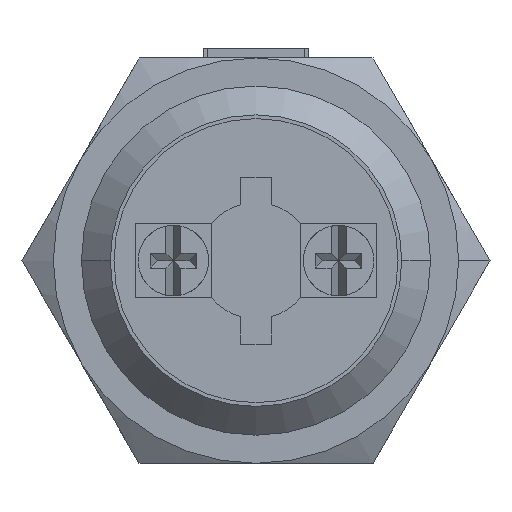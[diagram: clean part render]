
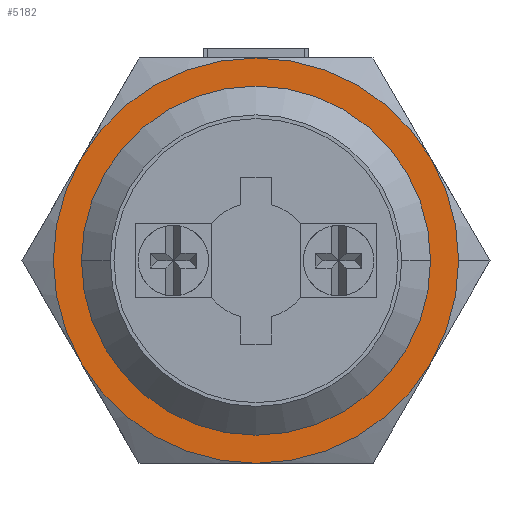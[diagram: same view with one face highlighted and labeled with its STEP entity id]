
A CAD part, front view. The second image highlights one B-rep face of the part: STEP entity #5182.
In plain terms, the highlighted planar face has unit normal (0, -1, 0).
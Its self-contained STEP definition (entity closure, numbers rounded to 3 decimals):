
#94 = CARTESIAN_POINT ( 'NONE',  ( 0., 8.55, 0. ) ) ;
#95 = DIRECTION ( 'NONE',  ( 0., -1., 0. ) ) ;
#96 = DIRECTION ( 'NONE',  ( 1., 0., 0. ) ) ;
#97 = CARTESIAN_POINT ( 'NONE',  ( 0., 8.55, 0. ) ) ;
#98 = DIRECTION ( 'NONE',  ( 0., -1., 0. ) ) ;
#99 = DIRECTION ( 'NONE',  ( 1., 0., 0. ) ) ;
#100 = CARTESIAN_POINT ( 'NONE',  ( 0., 8.55, 0. ) ) ;
#101 = DIRECTION ( 'NONE',  ( 0., -1., 0. ) ) ;
#102 = DIRECTION ( 'NONE',  ( 1., 0., 0. ) ) ;
#103 = CARTESIAN_POINT ( 'NONE',  ( 0., 8.55, 0. ) ) ;
#104 = DIRECTION ( 'NONE',  ( 0., -1., 0. ) ) ;
#105 = DIRECTION ( 'NONE',  ( 1., 0., 0. ) ) ;
#106 = CARTESIAN_POINT ( 'NONE',  ( 0., 8.55, 0. ) ) ;
#107 = DIRECTION ( 'NONE',  ( 0., -1., 0. ) ) ;
#108 = DIRECTION ( 'NONE',  ( 1., 0., 0. ) ) ;
#109 = CARTESIAN_POINT ( 'NONE',  ( 0., 8.55, 0. ) ) ;
#110 = DIRECTION ( 'NONE',  ( 0., -1., 0. ) ) ;
#111 = DIRECTION ( 'NONE',  ( 1., 0., 0. ) ) ;
#118 = CARTESIAN_POINT ( 'NONE',  ( 0., 8.55, 0. ) ) ;
#119 = DIRECTION ( 'NONE',  ( 0., 1., 0. ) ) ;
#120 = DIRECTION ( 'NONE',  ( -1., 0., 0. ) ) ;
#1071 = CARTESIAN_POINT ( 'NONE',  ( 9.45, 8.55, -5.456 ) ) ;
#1079 = CARTESIAN_POINT ( 'NONE',  ( 0., 8.55, 10.912 ) ) ;
#1083 = CARTESIAN_POINT ( 'NONE',  ( -9.45, 8.55, 5.456 ) ) ;
#1086 = CARTESIAN_POINT ( 'NONE',  ( -9.45, 8.55, -5.456 ) ) ;
#1091 = CARTESIAN_POINT ( 'NONE',  ( 0., 8.55, -10.912 ) ) ;
#1181 = CARTESIAN_POINT ( 'NONE',  ( 9.45, 8.55, 5.456 ) ) ;
#1183 = CARTESIAN_POINT ( 'NONE',  ( 10.912, 8.55, 0. ) ) ;
#1192 = CARTESIAN_POINT ( 'NONE',  ( 9.4, 8.55, 0. ) ) ;
#1210 = CARTESIAN_POINT ( 'NONE',  ( -9.4, 8.55, 0. ) ) ;
#1899 = ORIENTED_EDGE ( 'NONE', *, *, #5311, .T. ) ;
#1900 = ORIENTED_EDGE ( 'NONE', *, *, #5316, .T. ) ;
#1901 = ORIENTED_EDGE ( 'NONE', *, *, #5315, .T. ) ;
#1902 = ORIENTED_EDGE ( 'NONE', *, *, #5313, .T. ) ;
#1903 = ORIENTED_EDGE ( 'NONE', *, *, #5030, .T. ) ;
#1904 = ORIENTED_EDGE ( 'NONE', *, *, #5312, .T. ) ;
#1905 = ORIENTED_EDGE ( 'NONE', *, *, #5319, .T. ) ;
#1906 = ORIENTED_EDGE ( 'NONE', *, *, #4899, .T. ) ;
#1907 = ORIENTED_EDGE ( 'NONE', *, *, #5314, .T. ) ;
#2074 = EDGE_LOOP ( 'NONE', ( #1906, #1905 ) ) ;
#2075 = EDGE_LOOP ( 'NONE', ( #1904, #1903, #1902, #1907, #1901, #1900, #1899 ) ) ;
#2560 = CARTESIAN_POINT ( 'NONE',  ( 0., 8.55, 0. ) ) ;
#2579 = DIRECTION ( 'NONE',  ( 0., 1., 0. ) ) ;
#2580 = DIRECTION ( 'NONE',  ( -1., 0., 0. ) ) ;
#2892 = AXIS2_PLACEMENT_3D ( 'NONE', #118, #119, #120 ) ;
#2896 = AXIS2_PLACEMENT_3D ( 'NONE', #109, #110, #111 ) ;
#2898 = AXIS2_PLACEMENT_3D ( 'NONE', #106, #107, #108 ) ;
#2899 = AXIS2_PLACEMENT_3D ( 'NONE', #103, #104, #105 ) ;
#2900 = AXIS2_PLACEMENT_3D ( 'NONE', #100, #101, #102 ) ;
#2901 = AXIS2_PLACEMENT_3D ( 'NONE', #97, #98, #99 ) ;
#2902 = AXIS2_PLACEMENT_3D ( 'NONE', #94, #95, #96 ) ;
#3231 = AXIS2_PLACEMENT_3D ( 'NONE', #3994, #3995, #3996 ) ;
#3235 = FACE_OUTER_BOUND ( 'NONE', #2075, .T. ) ;
#3240 = FACE_BOUND ( 'NONE', #2074, .T. ) ;
#3429 = CARTESIAN_POINT ( 'NONE',  ( 0., 8.55, 0. ) ) ;
#3442 = DIRECTION ( 'NONE',  ( 0., -1., 0. ) ) ;
#3443 = DIRECTION ( 'NONE',  ( 1., 0., 0. ) ) ;
#3993 = PLANE ( 'NONE',  #3231 ) ;
#3994 = CARTESIAN_POINT ( 'NONE',  ( -9.4, 8.55, 0. ) ) ;
#3995 = DIRECTION ( 'NONE',  ( 0., -1., 0. ) ) ;
#3996 = DIRECTION ( 'NONE',  ( 1., 0., 0. ) ) ;
#4572 = AXIS2_PLACEMENT_3D ( 'NONE', #3429, #3442, #3443 ) ;
#4648 = AXIS2_PLACEMENT_3D ( 'NONE', #2560, #2579, #2580 ) ;
#4693 = CIRCLE ( 'NONE', #4572, 10.912 ) ;
#4811 = CIRCLE ( 'NONE', #2902, 10.912 ) ;
#4812 = CIRCLE ( 'NONE', #2901, 10.912 ) ;
#4813 = CIRCLE ( 'NONE', #2898, 10.912 ) ;
#4814 = CIRCLE ( 'NONE', #2899, 10.912 ) ;
#4815 = CIRCLE ( 'NONE', #2900, 10.912 ) ;
#4817 = CIRCLE ( 'NONE', #2896, 10.912 ) ;
#4822 = CIRCLE ( 'NONE', #2892, 9.4 ) ;
#4832 = CIRCLE ( 'NONE', #4648, 9.4 ) ;
#4899 = EDGE_CURVE ( 'NONE', #6096, #6078, #4832, .T. ) ;
#5030 = EDGE_CURVE ( 'NONE', #6069, #6067, #4693, .T. ) ;
#5182 = ADVANCED_FACE ( 'NONE', ( #3240, #3235 ), #3993, .T. ) ;
#5311 = EDGE_CURVE ( 'NONE', #5977, #5957, #4811, .T. ) ;
#5312 = EDGE_CURVE ( 'NONE', #5957, #6069, #4812, .T. ) ;
#5313 = EDGE_CURVE ( 'NONE', #6067, #5965, #4815, .T. ) ;
#5314 = EDGE_CURVE ( 'NONE', #5965, #5969, #4814, .T. ) ;
#5315 = EDGE_CURVE ( 'NONE', #5969, #5972, #4813, .T. ) ;
#5316 = EDGE_CURVE ( 'NONE', #5972, #5977, #4817, .T. ) ;
#5319 = EDGE_CURVE ( 'NONE', #6078, #6096, #4822, .T. ) ;
#5957 = VERTEX_POINT ( 'NONE', #1071 ) ;
#5965 = VERTEX_POINT ( 'NONE', #1079 ) ;
#5969 = VERTEX_POINT ( 'NONE', #1083 ) ;
#5972 = VERTEX_POINT ( 'NONE', #1086 ) ;
#5977 = VERTEX_POINT ( 'NONE', #1091 ) ;
#6067 = VERTEX_POINT ( 'NONE', #1181 ) ;
#6069 = VERTEX_POINT ( 'NONE', #1183 ) ;
#6078 = VERTEX_POINT ( 'NONE', #1192 ) ;
#6096 = VERTEX_POINT ( 'NONE', #1210 ) ;
